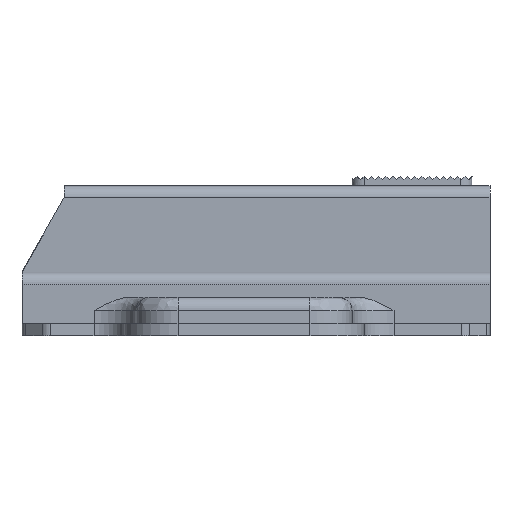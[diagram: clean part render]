
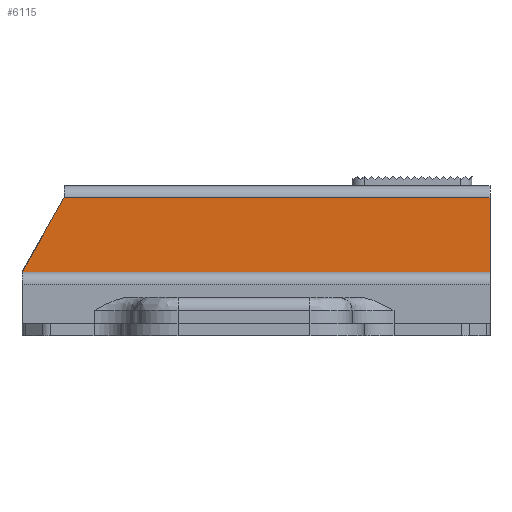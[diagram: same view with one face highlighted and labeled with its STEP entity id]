
A CAD part, front view. The second image highlights one B-rep face of the part: STEP entity #6115.
In plain terms, the highlighted planar face has unit normal (0, -1, 0).
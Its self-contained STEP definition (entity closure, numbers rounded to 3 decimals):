
#43 = VECTOR ( 'NONE', #7388, 1000. ) ;
#297 = CARTESIAN_POINT ( 'NONE',  ( 0., -7., 12.5 ) ) ;
#491 = LINE ( 'NONE', #1856, #43 ) ;
#603 = CARTESIAN_POINT ( 'NONE',  ( 6.5, -7., 5.3 ) ) ;
#748 = DIRECTION ( 'NONE',  ( -1., 0., 0. ) ) ;
#925 = VECTOR ( 'NONE', #748, 1000. ) ;
#984 = EDGE_CURVE ( 'NONE', #8808, #3816, #4352, .T. ) ;
#1053 = VECTOR ( 'NONE', #6807, 1000. ) ;
#1151 = VERTEX_POINT ( 'NONE', #8583 ) ;
#1232 = CARTESIAN_POINT ( 'NONE',  ( -32.5, -7., 5.3 ) ) ;
#1753 = FACE_OUTER_BOUND ( 'NONE', #7090, .T. ) ;
#1856 = CARTESIAN_POINT ( 'NONE',  ( -32.5, -7., 5.3 ) ) ;
#2081 = EDGE_CURVE ( 'NONE', #8808, #6181, #5693, .T. ) ;
#2204 = CARTESIAN_POINT ( 'NONE',  ( 6.5, -7., 1. ) ) ;
#2248 = CARTESIAN_POINT ( 'NONE',  ( 0., -7., 5.3 ) ) ;
#2528 = DIRECTION ( 'NONE',  ( 0., 0., 1. ) ) ;
#3209 = PLANE ( 'NONE',  #3301 ) ;
#3301 = AXIS2_PLACEMENT_3D ( 'NONE', #297, #5966, #2528 ) ;
#3816 = VERTEX_POINT ( 'NONE', #1232 ) ;
#4089 = EDGE_CURVE ( 'NONE', #1151, #6181, #7395, .T. ) ;
#4259 = ORIENTED_EDGE ( 'NONE', *, *, #984, .F. ) ;
#4352 = LINE ( 'NONE', #2248, #925 ) ;
#5693 = LINE ( 'NONE', #2204, #6497 ) ;
#5717 = EDGE_CURVE ( 'NONE', #3816, #1151, #491, .T. ) ;
#5966 = DIRECTION ( 'NONE',  ( 0., 1., 0. ) ) ;
#6115 = ADVANCED_FACE ( 'NONE', ( #1753 ), #3209, .F. ) ;
#6181 = VERTEX_POINT ( 'NONE', #9048 ) ;
#6252 = DIRECTION ( 'NONE',  ( 0., 0., 1. ) ) ;
#6497 = VECTOR ( 'NONE', #6252, 1000. ) ;
#6807 = DIRECTION ( 'NONE',  ( 1., 0., 0. ) ) ;
#7090 = EDGE_LOOP ( 'NONE', ( #8389, #8996, #4259, #8164 ) ) ;
#7388 = DIRECTION ( 'NONE',  ( 0.492, 0., 0.871 ) ) ;
#7395 = LINE ( 'NONE', #7442, #1053 ) ;
#7442 = CARTESIAN_POINT ( 'NONE',  ( 0., -7., 11.5 ) ) ;
#8164 = ORIENTED_EDGE ( 'NONE', *, *, #2081, .T. ) ;
#8389 = ORIENTED_EDGE ( 'NONE', *, *, #4089, .F. ) ;
#8583 = CARTESIAN_POINT ( 'NONE',  ( -29., -7., 11.5 ) ) ;
#8808 = VERTEX_POINT ( 'NONE', #603 ) ;
#8996 = ORIENTED_EDGE ( 'NONE', *, *, #5717, .F. ) ;
#9048 = CARTESIAN_POINT ( 'NONE',  ( 6.5, -7., 11.5 ) ) ;
